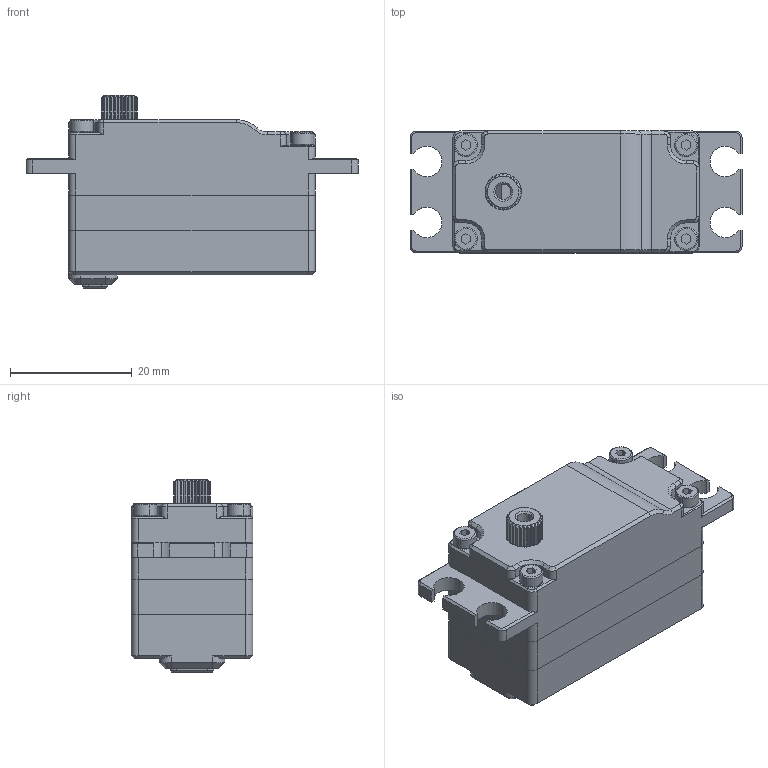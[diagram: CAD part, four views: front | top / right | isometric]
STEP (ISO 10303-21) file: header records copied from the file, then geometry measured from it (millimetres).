
FILE_DESCRIPTION (( 'STEP AP214' ), '1' );
FILE_NAME ('SV4012-12-DW_DM_20260401.STEP', '2026-04-01T00:57:38', ( '' ), ( '' ), 'SwSTEP 2.0', 'SolidWorks 2016', '' );
FILE_SCHEMA (( 'AUTOMOTIVE_DESIGN' ));
Length unit declared in the file: millimetre
Products named in the file (1): SV4012-12-DW_DM_20260401
Bounding box: 54.5 x 20 x 31.75 mm (x, y, z)
Surface area: 5548.6 mm2 (no closed solid volume)
Topology: 0 solids, 10 shells, 387 faces, 1046 edges, 669 vertices
Faces by surface type: plane 186, cylinder 121, cone 64, torus 16
Entity records: 16855 total; most frequent: CARTESIAN_POINT 2919, DIRECTION 2026, ORIENTED_EDGE 1982, EDGE_CURVE 1046, AXIS2_PLACEMENT_3D 714, VERTEX_POINT 669, LINE 598, VECTOR 598
